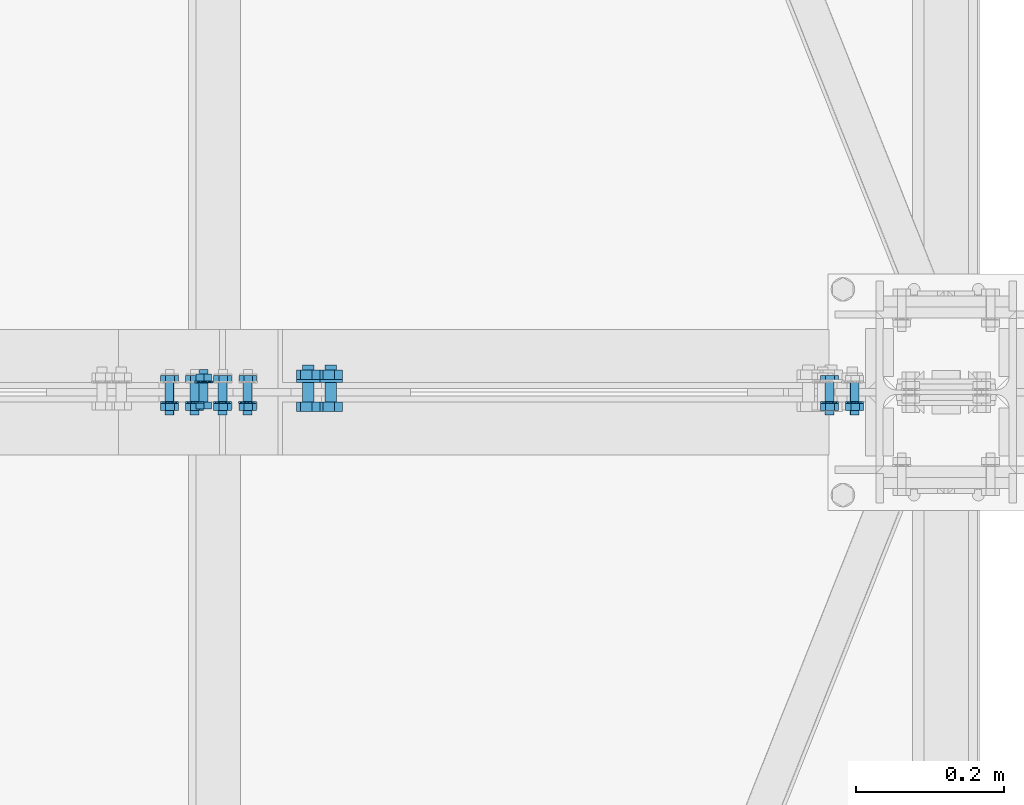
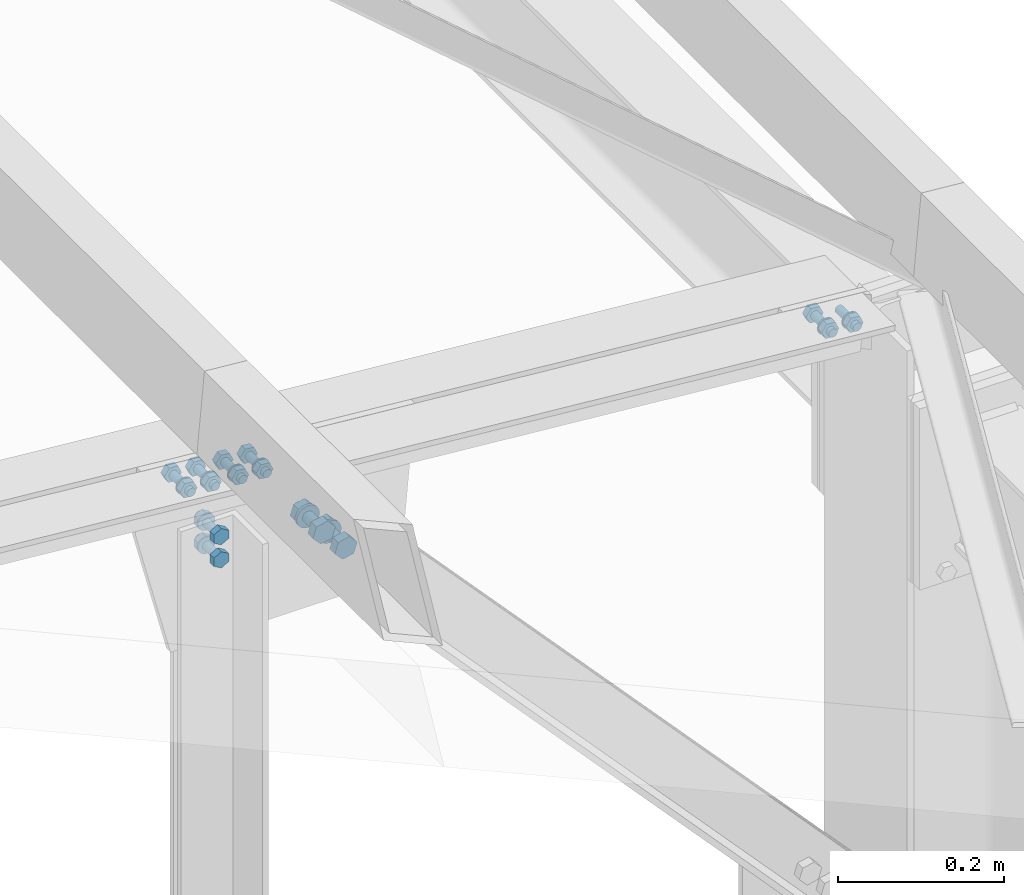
# One storey, part 180 of 251: 39 mechanical fasteners.
"""IFC4 building model written with IfcOpenShell, lengths in metres."""

import ifcopenshell
import ifcopenshell.guid

model = None  # the IFC model being written
_history = None  # IfcOwnerHistory: only IFC2X3 demands one
_inside = {}  # id of a spatial element -> (the spatial element, [elements in it])
_under = {}  # id of a project, library or spatial element -> (it, [spatial elements below it])
_declared = {}  # id of a project -> (the project, [libraries it declares])
_typed = {}  # id of a type object -> (the type object, [elements of that type])
_made_of = {}  # id of a material, layer set ... -> (it, [elements and type objects made of it])


def new_model(schema):
    """Start an empty IFC model of exactly this schema.

    Asked for "IFC4X3", IfcOpenShell would pick the latest addendum, in which some entities
    have other attributes; the version numbers below select the first issue.
    IFC2X3 requires an IfcOwnerHistory on every rooted entity: one is made here for all.
    """
    global model, _history
    if schema == "IFC4X3":
        model = ifcopenshell.file(schema_version=(4, 3, 0, 0))
    else:
        model = ifcopenshell.file(schema=schema)
    _inside.clear()
    _under.clear()
    _declared.clear()
    _typed.clear()
    _made_of.clear()
    _history = None
    if model.schema == "IFC2X3":
        org = make("IfcOrganization", Name="unknown")
        user = make(
            "IfcPersonAndOrganization",
            ThePerson=make("IfcPerson", FamilyName="unknown"),
            TheOrganization=org,
        )
        app = make(
            "IfcApplication",
            ApplicationDeveloper=org,
            Version="unknown",
            ApplicationFullName="unknown",
            ApplicationIdentifier="unknown",
        )
        _history = make(
            "IfcOwnerHistory",
            OwningUser=user,
            OwningApplication=app,
            ChangeAction="ADDED",
            CreationDate=0,
        )
    return model


def make(cls, **values):
    """One entity of the class cls with the attributes given. An attribute that is None is left unset."""
    return model.create_entity(
        cls, **{name: value for name, value in values.items() if value is not None}
    )


def rooted(cls, **values):
    """An entity with a GlobalId (a new one), such as an element, a storey or a relation."""
    return make(cls, GlobalId=ifcopenshell.guid.new(), OwnerHistory=_history, **values)


def si_unit(unit_type, name, prefix=None):
    """IfcSIUnit, for example si_unit("LENGTHUNIT", "METRE", prefix="MILLI")."""
    return make("IfcSIUnit", UnitType=unit_type, Prefix=prefix, Name=name)


def assignment(units):
    """IfcUnitAssignment: the units of a project."""
    return None if units is None else make("IfcUnitAssignment", Units=units)


def point(xyz):
    """IfcCartesianPoint."""
    return None if xyz is None else make("IfcCartesianPoint", Coordinates=xyz)


def direction(xyz):
    """IfcDirection."""
    return None if xyz is None else make("IfcDirection", DirectionRatios=xyz)


def frame(location, z_axis=None, x_axis=None):
    """IfcAxis2Placement3D, a coordinate frame: its origin and axes. An axis left out is left unset."""
    return make(
        "IfcAxis2Placement3D",
        Location=point(location),
        Axis=direction(z_axis),
        RefDirection=direction(x_axis),
    )


def origin_with_axes():
    """The frame at (0, 0, 0) with the z axis (0, 0, 1) and the x axis (1, 0, 0) written out."""
    return frame((0.0, 0.0, 0.0), z_axis=(0.0, 0.0, 1.0), x_axis=(1.0, 0.0, 0.0))


def place(relative_to, where):
    """IfcLocalPlacement: puts the frame where relative to a parent placement (None: the world)."""
    return make(
        "IfcLocalPlacement", PlacementRelTo=relative_to, RelativePlacement=where
    )


def context(
    kind, dimensions, precision=None, world=None, true_north=None, identifier=None
):
    """IfcGeometricRepresentationContext, for example the 3D "Model" context."""
    return make(
        "IfcGeometricRepresentationContext",
        ContextIdentifier=identifier,
        ContextType=kind,
        CoordinateSpaceDimension=dimensions,
        Precision=precision,
        WorldCoordinateSystem=world,
        TrueNorth=true_north,
    )


def project(units=None, contexts=None):
    """IfcProject with its units and contexts."""
    return rooted(
        "IfcProject",
        Name="project",
        RepresentationContexts=contexts,
        UnitsInContext=assignment(units),
    )


def spatial(cls, under=None, at=None, **own):
    """A site, building, storey or space (cls), placed at a placement, below another one or the project."""
    s = rooted(cls, ObjectPlacement=at, **own)
    if under is not None:
        _under.setdefault(under.id(), (under, []))[1].append(s)
    return s


def polyline(points):
    """IfcPolyline through the points."""
    return make("IfcPolyline", Points=[point(p) for p in points])


def outline(outer, holes=None, kind="AREA"):
    """IfcArbitraryClosedProfileDef: a profile drawn as a closed curve; with holes, ...WithVoids."""
    if holes is None:
        return make("IfcArbitraryClosedProfileDef", ProfileType=kind, OuterCurve=outer)
    return make(
        "IfcArbitraryProfileDefWithVoids",
        ProfileType=kind,
        OuterCurve=outer,
        InnerCurves=holes,
    )


def extrude(swept, where, along, depth):
    """IfcExtrudedAreaSolid: the profile swept, set in the frame where, extruded along a direction by depth."""
    return make(
        "IfcExtrudedAreaSolid",
        SweptArea=swept,
        Position=where,
        ExtrudedDirection=direction(along),
        Depth=depth,
    )


def shape(context_of_items, identifier, shape_type, items):
    """IfcShapeRepresentation: the items that make up one representation, for example the "Body"."""
    return make(
        "IfcShapeRepresentation",
        ContextOfItems=context_of_items,
        RepresentationIdentifier=identifier,
        RepresentationType=shape_type,
        Items=items,
    )


def made_of(thing, what):
    """Note that an element or type object is made of a material, layer set ...; save() writes the relation."""
    if what is not None:
        _made_of.setdefault(what.id(), (what, []))[1].append(thing)
    return thing


def type_object(cls, material=None, **own):
    """A type object (cls), such as IfcWallType, which elements share."""
    return made_of(rooted(cls, **own), material)


def element(
    cls,
    number,
    at=None,
    inside=None,
    cuts=None,
    type_object=None,
    material=None,
    context=None,
    identifier="Body",
    shape_type=None,
    held_by="IfcProductDefinitionShape",
    body=None,
    shapes=None,
    **own,
):
    """One element of the class cls, such as IfcWall. Its Tag is "e" and its number.

    at: its placement. inside: the storey or other place that contains it. cuts: it is an
    opening in that element (IfcRelVoidsElement). A single representation is given by context,
    identifier, shape_type and body (its items); several are given by shapes. held_by: the class
    of the entity that holds the representations. save() writes the other relations.
    """
    e = rooted(cls, Tag="e%d" % number, ObjectPlacement=at, **own)
    if body is not None:
        shapes = [shape(context, identifier, shape_type, body)]
    if shapes is not None:
        e.Representation = make(held_by, Representations=shapes)
    if inside is not None:
        _inside.setdefault(inside.id(), (inside, []))[1].append(e)
    if cuts is not None:
        rooted(
            "IfcRelVoidsElement", RelatingBuildingElement=cuts, RelatedOpeningElement=e
        )
    if type_object is not None:
        _typed.setdefault(type_object.id(), (type_object, []))[1].append(e)
    return made_of(e, material)


def aggregate(whole, parts):
    """IfcRelAggregates: a whole, such as a stair, and the parts it consists of."""
    return rooted("IfcRelAggregates", RelatingObject=whole, RelatedObjects=parts)


def save(model, path):
    """Write the relations noted so far, then the file.

    IfcRelAggregates (storeys below a building ...), IfcRelContainedInSpatialStructure (elements
    in a storey), IfcRelDefinesByType, IfcRelAssociatesMaterial and IfcRelDeclares: one each for
    every whole, place, type object, material and project.
    """
    for whole, parts in _under.values():
        aggregate(whole, parts)
    for where, things in _inside.values():
        rooted(
            "IfcRelContainedInSpatialStructure",
            RelatedElements=things,
            RelatingStructure=where,
        )
    for kind, things in _typed.values():
        rooted("IfcRelDefinesByType", RelatedObjects=things, RelatingType=kind)
    for what, things in _made_of.values():
        rooted("IfcRelAssociatesMaterial", RelatedObjects=things, RelatingMaterial=what)
    for by, libraries in _declared.values():
        rooted("IfcRelDeclares", RelatingContext=by, RelatedDefinitions=libraries)
    model.write(path)


model = new_model("IFC4")

# Units and contexts
model_context = context("Model", 3, precision=1e-05, world=origin_with_axes())
ifc_project = project(units=[si_unit("LENGTHUNIT", "METRE"), si_unit("AREAUNIT", "SQUARE_METRE"), si_unit("VOLUMEUNIT", "CUBIC_METRE"), si_unit("MASSUNIT", "GRAM", prefix="KILO"), si_unit("TIMEUNIT", "SECOND"), si_unit("PLANEANGLEUNIT", "RADIAN"), si_unit("SOLIDANGLEUNIT", "STERADIAN"), si_unit("THERMODYNAMICTEMPERATUREUNIT", "DEGREE_CELSIUS")], contexts=[model_context])

# Site, building, storey
placement_1 = place(None, origin_with_axes())
site = spatial("IfcSite", under=ifc_project, at=placement_1, Name="Italia", CompositionType="ELEMENT")
building = spatial("IfcBuilding", under=site, at=placement_1, Name="Deposito", CompositionType="ELEMENT")
storey = spatial("IfcBuildingStorey", under=building, at=placement_1, Name="Storey 0", CompositionType="ELEMENT", Elevation=0.0)

# Mechanical fasteners
mechanical_fastener_type_1 = type_object("IfcMechanicalFastenerType", Name="Reticolare 5", PredefinedType="BOLT")
placement_2 = place(placement_1, origin_with_axes())
mechanical_fastener_1_placement = place(placement_2, origin_with_axes())
element("IfcMechanicalFastener", 1, at=mechanical_fastener_1_placement, inside=storey, type_object=mechanical_fastener_type_1, Name="Reticolare 5", NominalDiameter=0.012, context=model_context, shape_type="SweptSolid", body=[
    extrude(outline(polyline([(0.0, 0.0), (-0.000204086, -0.00155306), (-0.000804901, -0.00299978), (-0.00175858, -0.00424242), (-0.00300026, -0.00519609), (-0.00444794, -0.00579548), (-0.00600052, -0.00600004), (-0.0075531, -0.00579548), (-0.00900078, -0.00519609), (-0.0102425, -0.00424242), (-0.0111961, -0.00299978), (-0.011797, -0.00155306), (-0.012001, 0.0), (-0.011797, 0.00155306), (-0.0111961, 0.00299978), (-0.0102425, 0.00424242), (-0.00900078, 0.00519609), (-0.0075531, 0.00579548), (-0.00600052, 0.00600004), (-0.00444794, 0.00579548), (-0.00300026, 0.00519609), (-0.00175858, 0.00424242), (-0.000804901, 0.00299978), (-0.000204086, 0.00155306), (0.0, 0.0)])), frame((19.8702, 14.969, 6.0038), z_axis=(0.0, 1.0, 0.0), x_axis=(-1.0, 0.0, 0.0)), (0.0, 0.0, 1.0), 0.0439997),
])
mechanical_fastener_type_2 = type_object("IfcMechanicalFastenerType", Name="Reticolare 5", PredefinedType="BOLT")
mechanical_fastener_2_placement = place(placement_2, origin_with_axes())
element("IfcMechanicalFastener", 2, at=mechanical_fastener_2_placement, inside=storey, type_object=mechanical_fastener_type_2, Name="Reticolare 5", NominalDiameter=0.011999, context=model_context, shape_type="SweptSolid", body=[
    extrude(outline(polyline([(0.0, 0.0), (0.0119534, 0.00104618), (0.018837, -0.00878382), (0.0137653, -0.0196595), (0.00181198, -0.0207052), (-0.00507164, -0.0108757), (0.0, 0.0)])), frame((19.8831, 14.9754, 6.01363), z_axis=(0.0, 1.0, 0.0), x_axis=(-1.0, 0.0, 0.0)), (0.0, 0.0, 1.0), 0.00959969),
])
mechanical_fastener_type_3 = type_object("IfcMechanicalFastenerType", Name="Reticolare 5", PredefinedType="BOLT")
mechanical_fastener_3_placement = place(placement_2, origin_with_axes())
element("IfcMechanicalFastener", 3, at=mechanical_fastener_3_placement, inside=storey, type_object=mechanical_fastener_type_3, Name="Reticolare 5", NominalDiameter=0.024, context=model_context, shape_type="SweptSolid", body=[
    extrude(outline(polyline([(0.0, 0.0), (-0.000408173, -0.00310564), (-0.00160599, -0.00600004), (-0.00351334, -0.00848532), (-0.00599861, -0.0103922), (-0.00889397, -0.011591), (-0.0119991, -0.0120001), (-0.0151043, -0.011591), (-0.0179996, -0.0103922), (-0.0204849, -0.00848532), (-0.0223923, -0.00600004), (-0.0235901, -0.00310564), (-0.0239983, 0.0), (-0.0235901, 0.00310564), (-0.0223923, 0.00600004), (-0.0204849, 0.00848532), (-0.0179996, 0.0103922), (-0.0151043, 0.011591), (-0.0119991, 0.0120001), (-0.00889397, 0.011591), (-0.00599861, 0.0103922), (-0.00351334, 0.00848532), (-0.00160599, 0.00600004), (-0.000408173, 0.00310564), (0.0, 0.0)])), frame((19.8642, 14.985, 6.0038), z_axis=(0.0, 1.0, 0.0), x_axis=(-1.0, 0.0, 0.0)), (0.0, 0.0, 1.0), 0.00200081),
])
mechanical_fastener_type_4 = type_object("IfcMechanicalFastenerType", Name="Reticolare 5", PredefinedType="BOLT")
mechanical_fastener_4_placement = place(placement_2, origin_with_axes())
element("IfcMechanicalFastener", 4, at=mechanical_fastener_4_placement, inside=storey, type_object=mechanical_fastener_type_4, Name="Reticolare 5", NominalDiameter=0.011999, context=model_context, shape_type="SweptSolid", body=[
    extrude(outline(polyline([(0.0, 0.0), (0.0119534, 0.0010457), (0.018837, -0.00878429), (0.0137653, -0.01966), (0.00181198, -0.0207057), (-0.00507164, -0.0108757), (0.0, 0.0)])), frame((19.8492, 15.013, 6.0166), z_axis=(0.0, 1.0, 0.0), x_axis=(-1.0, 0.0, 0.0)), (0.0, 0.0, 1.0), 0.00960064),
])
mechanical_fastener_type_5 = type_object("IfcMechanicalFastenerType", Name="Reticolare 5", PredefinedType="BOLT")
mechanical_fastener_5_placement = place(placement_2, origin_with_axes())
element("IfcMechanicalFastener", 5, at=mechanical_fastener_5_placement, inside=storey, type_object=mechanical_fastener_type_5, Name="Reticolare 5", NominalDiameter=0.012, context=model_context, shape_type="SweptSolid", body=[
    extrude(outline(polyline([(0.0, 0.0), (-0.000204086, -0.00155306), (-0.000804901, -0.00299978), (-0.00175858, -0.00424242), (-0.00300026, -0.00519609), (-0.00444794, -0.00579548), (-0.00600052, -0.00600004), (-0.0075531, -0.00579548), (-0.00900078, -0.00519609), (-0.0102425, -0.00424242), (-0.0111961, -0.00299978), (-0.011797, -0.00155306), (-0.012001, 0.0), (-0.011797, 0.00155306), (-0.0111961, 0.00299978), (-0.0102425, 0.00424242), (-0.00900078, 0.00519609), (-0.0075531, 0.00579548), (-0.00600052, 0.00600004), (-0.00444794, 0.00579548), (-0.00300026, 0.00519609), (-0.00175858, 0.00424242), (-0.000804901, 0.00299978), (-0.000204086, 0.00155306), (0.0, 0.0)])), frame((19.8363, 14.969, 6.00677), z_axis=(0.0, 1.0, 0.0), x_axis=(-1.0, 0.0, 0.0)), (0.0, 0.0, 1.0), 0.0439997),
])
mechanical_fastener_type_6 = type_object("IfcMechanicalFastenerType", Name="Reticolare 5", PredefinedType="BOLT")
mechanical_fastener_6_placement = place(placement_2, origin_with_axes())
element("IfcMechanicalFastener", 6, at=mechanical_fastener_6_placement, inside=storey, type_object=mechanical_fastener_type_6, Name="Reticolare 5", NominalDiameter=0.011999, context=model_context, shape_type="SweptSolid", body=[
    extrude(outline(polyline([(0.0, 0.0), (0.0119534, 0.0010457), (0.018837, -0.00878429), (0.0137653, -0.01966), (0.00181198, -0.0207057), (-0.00507164, -0.0108757), (0.0, 0.0)])), frame((19.8492, 14.9754, 6.0166), z_axis=(0.0, 1.0, 0.0), x_axis=(-1.0, 0.0, 0.0)), (0.0, 0.0, 1.0), 0.00959969),
])
mechanical_fastener_type_7 = type_object("IfcMechanicalFastenerType", Name="Reticolare 5", PredefinedType="BOLT")
mechanical_fastener_7_placement = place(placement_2, origin_with_axes())
element("IfcMechanicalFastener", 7, at=mechanical_fastener_7_placement, inside=storey, type_object=mechanical_fastener_type_7, Name="Reticolare 5", NominalDiameter=0.024, context=model_context, shape_type="SweptSolid", body=[
    extrude(outline(polyline([(0.0, 0.0), (-0.000408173, -0.00310564), (-0.00160599, -0.00600004), (-0.00351334, -0.00848532), (-0.00599861, -0.0103922), (-0.00889397, -0.011591), (-0.0119991, -0.0120001), (-0.0151043, -0.011591), (-0.0179996, -0.0103922), (-0.0204849, -0.00848532), (-0.0223923, -0.00600004), (-0.0235901, -0.00310564), (-0.0239983, 0.0), (-0.0235901, 0.00310564), (-0.0223923, 0.00600004), (-0.0204849, 0.00848532), (-0.0179996, 0.0103922), (-0.0151043, 0.011591), (-0.0119991, 0.0120001), (-0.00889397, 0.011591), (-0.00599861, 0.0103922), (-0.00351334, 0.00848532), (-0.00160599, 0.00600004), (-0.000408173, 0.00310564), (0.0, 0.0)])), frame((19.8303, 14.985, 6.00677), z_axis=(0.0, 1.0, 0.0), x_axis=(-1.0, 0.0, 0.0)), (0.0, 0.0, 1.0), 0.00200081),
])
mechanical_fastener_type_8 = type_object("IfcMechanicalFastenerType", Name="Reticolare 5", PredefinedType="BOLT")
mechanical_fastener_8_placement = place(placement_2, origin_with_axes())
element("IfcMechanicalFastener", 8, at=mechanical_fastener_8_placement, inside=storey, type_object=mechanical_fastener_type_8, Name="Reticolare 5", NominalDiameter=0.011999, context=model_context, shape_type="SweptSolid", body=[
    extrude(outline(polyline([(0.0, 0.0), (0.0119534, 0.0010457), (0.018837, -0.00878429), (0.0137653, -0.01966), (0.00181007, -0.0207057), (-0.00507164, -0.0108757), (0.0, 0.0)])), frame((19.029, 15.013, 6.08836), z_axis=(0.0, 1.0, 0.0), x_axis=(-1.0, 0.0, 0.0)), (0.0, 0.0, 1.0), 0.00960064),
])
mechanical_fastener_type_9 = type_object("IfcMechanicalFastenerType", Name="Reticolare 5", PredefinedType="BOLT")
mechanical_fastener_9_placement = place(placement_2, origin_with_axes())
element("IfcMechanicalFastener", 9, at=mechanical_fastener_9_placement, inside=storey, type_object=mechanical_fastener_type_9, Name="Reticolare 5", NominalDiameter=0.012, context=model_context, shape_type="SweptSolid", body=[
    extrude(outline(polyline([(0.0, 0.0), (-0.000204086, -0.00155306), (-0.000804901, -0.00299978), (-0.00175858, -0.00424242), (-0.00300026, -0.00519609), (-0.00444794, -0.00579548), (-0.00600052, -0.00600004), (-0.0075531, -0.00579548), (-0.00900078, -0.00519609), (-0.0102425, -0.00424242), (-0.0111961, -0.00299978), (-0.011797, -0.00155306), (-0.012001, 0.0), (-0.011797, 0.00155306), (-0.0111961, 0.00299978), (-0.0102425, 0.00424242), (-0.00900078, 0.00519609), (-0.0075531, 0.00579548), (-0.00600052, 0.00600004), (-0.00444794, 0.00579548), (-0.00300026, 0.00519609), (-0.00175858, 0.00424242), (-0.000804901, 0.00299978), (-0.000204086, 0.00155306), (0.0, 0.0)])), frame((19.0161, 14.969, 6.07853), z_axis=(0.0, 1.0, 0.0), x_axis=(-1.0, 0.0, 0.0)), (0.0, 0.0, 1.0), 0.0439997),
])
mechanical_fastener_type_10 = type_object("IfcMechanicalFastenerType", Name="Reticolare 5", PredefinedType="BOLT")
mechanical_fastener_10_placement = place(placement_2, origin_with_axes())
element("IfcMechanicalFastener", 10, at=mechanical_fastener_10_placement, inside=storey, type_object=mechanical_fastener_type_10, Name="Reticolare 5", NominalDiameter=0.011999, context=model_context, shape_type="SweptSolid", body=[
    extrude(outline(polyline([(0.0, 0.0), (0.0119534, 0.0010457), (0.018837, -0.00878429), (0.0137653, -0.01966), (0.00181007, -0.0207057), (-0.00507164, -0.0108757), (0.0, 0.0)])), frame((19.029, 14.9754, 6.08836), z_axis=(0.0, 1.0, 0.0), x_axis=(-1.0, 0.0, 0.0)), (0.0, 0.0, 1.0), 0.00959969),
])
mechanical_fastener_type_11 = type_object("IfcMechanicalFastenerType", Name="Reticolare 5", PredefinedType="BOLT")
mechanical_fastener_11_placement = place(placement_2, origin_with_axes())
element("IfcMechanicalFastener", 11, at=mechanical_fastener_11_placement, inside=storey, type_object=mechanical_fastener_type_11, Name="Reticolare 5", NominalDiameter=0.024, context=model_context, shape_type="SweptSolid", body=[
    extrude(outline(polyline([(0.0, 0.0), (-0.000408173, -0.00310564), (-0.00160599, -0.00600004), (-0.00351334, -0.00848532), (-0.00599861, -0.0103922), (-0.00889397, -0.011591), (-0.0119991, -0.0120001), (-0.0151043, -0.011591), (-0.0179996, -0.0103922), (-0.0204849, -0.00848532), (-0.0223923, -0.00600004), (-0.0235901, -0.00310564), (-0.0239983, 0.0), (-0.0235901, 0.00310564), (-0.0223923, 0.00600004), (-0.0204849, 0.00848532), (-0.0179996, 0.0103922), (-0.0151043, 0.011591), (-0.0119991, 0.0120001), (-0.00889397, 0.011591), (-0.00599861, 0.0103922), (-0.00351334, 0.00848532), (-0.00160599, 0.00600004), (-0.000408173, 0.00310564), (0.0, 0.0)])), frame((19.0101, 14.985, 6.07853), z_axis=(0.0, 1.0, 0.0), x_axis=(-1.0, 0.0, 0.0)), (0.0, 0.0, 1.0), 0.00200081),
])
mechanical_fastener_type_12 = type_object("IfcMechanicalFastenerType", Name="Reticolare 5", PredefinedType="BOLT")
mechanical_fastener_12_placement = place(placement_2, origin_with_axes())
element("IfcMechanicalFastener", 12, at=mechanical_fastener_12_placement, inside=storey, type_object=mechanical_fastener_type_12, Name="Reticolare 5", NominalDiameter=0.011999, context=model_context, shape_type="SweptSolid", body=[
    extrude(outline(polyline([(0.0, 0.0), (0.0119534, 0.0010457), (0.018837, -0.00878382), (0.0137653, -0.0196595), (0.00181007, -0.0207052), (-0.00507164, -0.0108757), (0.0, 0.0)])), frame((19.0629, 15.013, 6.08539), z_axis=(0.0, 1.0, 0.0), x_axis=(-1.0, 0.0, 0.0)), (0.0, 0.0, 1.0), 0.00960064),
])
mechanical_fastener_type_13 = type_object("IfcMechanicalFastenerType", Name="Reticolare 5", PredefinedType="BOLT")
mechanical_fastener_13_placement = place(placement_2, origin_with_axes())
element("IfcMechanicalFastener", 13, at=mechanical_fastener_13_placement, inside=storey, type_object=mechanical_fastener_type_13, Name="Reticolare 5", NominalDiameter=0.012, context=model_context, shape_type="SweptSolid", body=[
    extrude(outline(polyline([(0.0, 0.0), (-0.000204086, -0.00155306), (-0.000804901, -0.00299978), (-0.00175858, -0.00424242), (-0.00300026, -0.00519609), (-0.00444794, -0.00579548), (-0.00600052, -0.00600004), (-0.0075531, -0.00579548), (-0.00900078, -0.00519609), (-0.0102425, -0.00424242), (-0.0111961, -0.00299978), (-0.011797, -0.00155306), (-0.012001, 0.0), (-0.011797, 0.00155306), (-0.0111961, 0.00299978), (-0.0102425, 0.00424242), (-0.00900078, 0.00519609), (-0.0075531, 0.00579548), (-0.00600052, 0.00600004), (-0.00444794, 0.00579548), (-0.00300026, 0.00519609), (-0.00175858, 0.00424242), (-0.000804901, 0.00299978), (-0.000204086, 0.00155306), (0.0, 0.0)])), frame((19.05, 14.969, 6.07556), z_axis=(0.0, 1.0, 0.0), x_axis=(-1.0, 0.0, 0.0)), (0.0, 0.0, 1.0), 0.0439997),
])
mechanical_fastener_type_14 = type_object("IfcMechanicalFastenerType", Name="Reticolare 5", PredefinedType="BOLT")
mechanical_fastener_14_placement = place(placement_2, origin_with_axes())
element("IfcMechanicalFastener", 14, at=mechanical_fastener_14_placement, inside=storey, type_object=mechanical_fastener_type_14, Name="Reticolare 5", NominalDiameter=0.011999, context=model_context, shape_type="SweptSolid", body=[
    extrude(outline(polyline([(0.0, 0.0), (0.0119534, 0.0010457), (0.018837, -0.00878382), (0.0137653, -0.0196595), (0.00181007, -0.0207052), (-0.00507164, -0.0108757), (0.0, 0.0)])), frame((19.0629, 14.9754, 6.08539), z_axis=(0.0, 1.0, 0.0), x_axis=(-1.0, 0.0, 0.0)), (0.0, 0.0, 1.0), 0.00959969),
])
mechanical_fastener_type_15 = type_object("IfcMechanicalFastenerType", Name="Reticolare 5", PredefinedType="BOLT")
mechanical_fastener_15_placement = place(placement_2, origin_with_axes())
element("IfcMechanicalFastener", 15, at=mechanical_fastener_15_placement, inside=storey, type_object=mechanical_fastener_type_15, Name="Reticolare 5", NominalDiameter=0.024, context=model_context, shape_type="SweptSolid", body=[
    extrude(outline(polyline([(0.0, 0.0), (-0.000408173, -0.00310564), (-0.00160599, -0.00600004), (-0.00351334, -0.00848532), (-0.00599861, -0.0103922), (-0.00889397, -0.011591), (-0.0119991, -0.0120001), (-0.0151043, -0.011591), (-0.0179996, -0.0103922), (-0.0204849, -0.00848532), (-0.0223923, -0.00600004), (-0.0235901, -0.00310564), (-0.0239983, 0.0), (-0.0235901, 0.00310564), (-0.0223923, 0.00600004), (-0.0204849, 0.00848532), (-0.0179996, 0.0103922), (-0.0151043, 0.011591), (-0.0119991, 0.0120001), (-0.00889397, 0.011591), (-0.00599861, 0.0103922), (-0.00351334, 0.00848532), (-0.00160599, 0.00600004), (-0.000408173, 0.00310564), (0.0, 0.0)])), frame((19.044, 14.985, 6.07556), z_axis=(0.0, 1.0, 0.0), x_axis=(-1.0, 0.0, 0.0)), (0.0, 0.0, 1.0), 0.00200081),
])
mechanical_fastener_type_16 = type_object("IfcMechanicalFastenerType", Name="Reticolare 5", PredefinedType="BOLT")
mechanical_fastener_16_placement = place(placement_2, origin_with_axes())
element("IfcMechanicalFastener", 16, at=mechanical_fastener_16_placement, inside=storey, type_object=mechanical_fastener_type_16, Name="Reticolare 5", NominalDiameter=0.011999, context=model_context, shape_type="SweptSolid", body=[
    extrude(outline(polyline([(0.0, 0.0), (0.0119534, 0.00104618), (0.018837, -0.00878382), (0.0137653, -0.0196595), (0.00181198, -0.0207052), (-0.00507164, -0.0108757), (0.0, 0.0)])), frame((18.9911, 15.013, 6.09167), z_axis=(0.0, 1.0, 0.0), x_axis=(-1.0, 0.0, 0.0)), (0.0, 0.0, 1.0), 0.00960064),
])
mechanical_fastener_type_17 = type_object("IfcMechanicalFastenerType", Name="Reticolare 5", PredefinedType="BOLT")
mechanical_fastener_17_placement = place(placement_2, origin_with_axes())
element("IfcMechanicalFastener", 17, at=mechanical_fastener_17_placement, inside=storey, type_object=mechanical_fastener_type_17, Name="Reticolare 5", NominalDiameter=0.012, context=model_context, shape_type="SweptSolid", body=[
    extrude(outline(polyline([(0.0, 0.0), (-0.000204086, -0.00155306), (-0.000804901, -0.00299978), (-0.00175858, -0.00424242), (-0.00300026, -0.00519609), (-0.00444794, -0.00579548), (-0.00600052, -0.00600004), (-0.0075531, -0.00579548), (-0.00900078, -0.00519609), (-0.0102425, -0.00424242), (-0.0111961, -0.00299978), (-0.011797, -0.00155306), (-0.012001, 0.0), (-0.011797, 0.00155306), (-0.0111961, 0.00299978), (-0.0102425, 0.00424242), (-0.00900078, 0.00519609), (-0.0075531, 0.00579548), (-0.00600052, 0.00600004), (-0.00444794, 0.00579548), (-0.00300026, 0.00519609), (-0.00175858, 0.00424242), (-0.000804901, 0.00299978), (-0.000204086, 0.00155306), (0.0, 0.0)])), frame((18.9783, 14.969, 6.08184), z_axis=(0.0, 1.0, 0.0), x_axis=(-1.0, 0.0, 0.0)), (0.0, 0.0, 1.0), 0.0439997),
])
mechanical_fastener_type_18 = type_object("IfcMechanicalFastenerType", Name="Reticolare 5", PredefinedType="BOLT")
mechanical_fastener_18_placement = place(placement_2, origin_with_axes())
element("IfcMechanicalFastener", 18, at=mechanical_fastener_18_placement, inside=storey, type_object=mechanical_fastener_type_18, Name="Reticolare 5", NominalDiameter=0.011999, context=model_context, shape_type="SweptSolid", body=[
    extrude(outline(polyline([(0.0, 0.0), (0.0119534, 0.00104618), (0.018837, -0.00878382), (0.0137653, -0.0196595), (0.00181198, -0.0207052), (-0.00507164, -0.0108757), (0.0, 0.0)])), frame((18.9911, 14.9754, 6.09167), z_axis=(0.0, 1.0, 0.0), x_axis=(-1.0, 0.0, 0.0)), (0.0, 0.0, 1.0), 0.00959969),
])
mechanical_fastener_type_19 = type_object("IfcMechanicalFastenerType", Name="Reticolare 5", PredefinedType="BOLT")
mechanical_fastener_19_placement = place(placement_2, origin_with_axes())
element("IfcMechanicalFastener", 19, at=mechanical_fastener_19_placement, inside=storey, type_object=mechanical_fastener_type_19, Name="Reticolare 5", NominalDiameter=0.024, context=model_context, shape_type="SweptSolid", body=[
    extrude(outline(polyline([(0.0, 0.0), (-0.000408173, -0.00310564), (-0.00160599, -0.00600004), (-0.00351334, -0.00848532), (-0.00599861, -0.0103922), (-0.00889397, -0.011591), (-0.0119991, -0.0120001), (-0.0151043, -0.011591), (-0.0179996, -0.0103922), (-0.0204849, -0.00848532), (-0.0223923, -0.00600004), (-0.0235901, -0.00310564), (-0.0239983, 0.0), (-0.0235901, 0.00310564), (-0.0223923, 0.00600004), (-0.0204849, 0.00848532), (-0.0179996, 0.0103922), (-0.0151043, 0.011591), (-0.0119991, 0.0120001), (-0.00889397, 0.011591), (-0.00599861, 0.0103922), (-0.00351334, 0.00848532), (-0.00160599, 0.00600004), (-0.000408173, 0.00310564), (0.0, 0.0)])), frame((18.9723, 14.985, 6.08184), z_axis=(0.0, 1.0, 0.0), x_axis=(-1.0, 0.0, 0.0)), (0.0, 0.0, 1.0), 0.00200081),
])
mechanical_fastener_type_20 = type_object("IfcMechanicalFastenerType", Name="Reticolare 5", PredefinedType="BOLT")
mechanical_fastener_20_placement = place(placement_2, origin_with_axes())
element("IfcMechanicalFastener", 20, at=mechanical_fastener_20_placement, inside=storey, type_object=mechanical_fastener_type_20, Name="Reticolare 5", NominalDiameter=0.011999, context=model_context, shape_type="SweptSolid", body=[
    extrude(outline(polyline([(0.0, 0.0), (0.0119534, 0.0010457), (0.018837, -0.00878429), (0.0137653, -0.01966), (0.00181198, -0.0207057), (-0.00507164, -0.0108757), (0.0, 0.0)])), frame((18.9573, 15.013, 6.09463), z_axis=(0.0, 1.0, 0.0), x_axis=(-1.0, 0.0, 0.0)), (0.0, 0.0, 1.0), 0.00960064),
])
mechanical_fastener_type_21 = type_object("IfcMechanicalFastenerType", Name="Reticolare 5", PredefinedType="BOLT")
mechanical_fastener_21_placement = place(placement_2, origin_with_axes())
element("IfcMechanicalFastener", 21, at=mechanical_fastener_21_placement, inside=storey, type_object=mechanical_fastener_type_21, Name="Reticolare 5", NominalDiameter=0.012, context=model_context, shape_type="SweptSolid", body=[
    extrude(outline(polyline([(0.0, 0.0), (-0.000204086, -0.00155306), (-0.000804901, -0.00299978), (-0.00175858, -0.00424242), (-0.00300026, -0.00519609), (-0.00444794, -0.00579548), (-0.00600052, -0.00600004), (-0.0075531, -0.00579548), (-0.00900078, -0.00519609), (-0.0102425, -0.00424242), (-0.0111961, -0.00299978), (-0.011797, -0.00155306), (-0.012001, 0.0), (-0.011797, 0.00155306), (-0.0111961, 0.00299978), (-0.0102425, 0.00424242), (-0.00900078, 0.00519609), (-0.0075531, 0.00579548), (-0.00600052, 0.00600004), (-0.00444794, 0.00579548), (-0.00300026, 0.00519609), (-0.00175858, 0.00424242), (-0.000804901, 0.00299978), (-0.000204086, 0.00155306), (0.0, 0.0)])), frame((18.9444, 14.969, 6.0848), z_axis=(0.0, 1.0, 0.0), x_axis=(-1.0, 0.0, 0.0)), (0.0, 0.0, 1.0), 0.0439997),
])
mechanical_fastener_type_22 = type_object("IfcMechanicalFastenerType", Name="Reticolare 5", PredefinedType="BOLT")
mechanical_fastener_22_placement = place(placement_2, origin_with_axes())
element("IfcMechanicalFastener", 22, at=mechanical_fastener_22_placement, inside=storey, type_object=mechanical_fastener_type_22, Name="Reticolare 5", NominalDiameter=0.011999, context=model_context, shape_type="SweptSolid", body=[
    extrude(outline(polyline([(0.0, 0.0), (0.0119534, 0.0010457), (0.018837, -0.00878429), (0.0137653, -0.01966), (0.00181198, -0.0207057), (-0.00507164, -0.0108757), (0.0, 0.0)])), frame((18.9573, 14.9754, 6.09463), z_axis=(0.0, 1.0, 0.0), x_axis=(-1.0, 0.0, 0.0)), (0.0, 0.0, 1.0), 0.00959969),
])
mechanical_fastener_type_23 = type_object("IfcMechanicalFastenerType", Name="Reticolare 5", PredefinedType="BOLT")
mechanical_fastener_23_placement = place(placement_2, origin_with_axes())
element("IfcMechanicalFastener", 23, at=mechanical_fastener_23_placement, inside=storey, type_object=mechanical_fastener_type_23, Name="Reticolare 5", NominalDiameter=0.024, context=model_context, shape_type="SweptSolid", body=[
    extrude(outline(polyline([(0.0, 0.0), (-0.000408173, -0.00310564), (-0.00160599, -0.00600004), (-0.00351334, -0.00848532), (-0.00599861, -0.0103922), (-0.00889397, -0.011591), (-0.0119991, -0.0120001), (-0.0151043, -0.011591), (-0.0179996, -0.0103922), (-0.0204849, -0.00848532), (-0.0223923, -0.00600004), (-0.0235901, -0.00310564), (-0.0239983, 0.0), (-0.0235901, 0.00310564), (-0.0223923, 0.00600004), (-0.0204849, 0.00848532), (-0.0179996, 0.0103922), (-0.0151043, 0.011591), (-0.0119991, 0.0120001), (-0.00889397, 0.011591), (-0.00599861, 0.0103922), (-0.00351334, 0.00848532), (-0.00160599, 0.00600004), (-0.000408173, 0.00310564), (0.0, 0.0)])), frame((18.9384, 14.985, 6.0848), z_axis=(0.0, 1.0, 0.0), x_axis=(-1.0, 0.0, 0.0)), (0.0, 0.0, 1.0), 0.00200081),
])
mechanical_fastener_type_24 = type_object("IfcMechanicalFastenerType", Name="Reticolare 5", PredefinedType="BOLT")
mechanical_fastener_24_placement = place(placement_2, origin_with_axes())
element("IfcMechanicalFastener", 24, at=mechanical_fastener_24_placement, inside=storey, type_object=mechanical_fastener_type_24, Name="Reticolare 5", NominalDiameter=0.0120001, context=model_context, shape_type="SweptSolid", body=[
    extrude(outline(polyline([(0.0, 0.0), (0.0, -0.0120001), (-0.0103931, -0.0180001), (-0.0207863, -0.0120001), (-0.0207863, 0.0), (-0.0103931, 0.00600004), (0.0, 0.0)])), frame((19.0072, 14.987, 6.0044), z_axis=(0.0, -1.0, 0.0), x_axis=(1.0, 0.0, 0.0)), (0.0, 0.0, 1.0), 0.00960064),
])
mechanical_fastener_type_25 = type_object("IfcMechanicalFastenerType", Name="Reticolare 5", PredefinedType="BOLT")
mechanical_fastener_25_placement = place(placement_2, origin_with_axes())
element("IfcMechanicalFastener", 25, at=mechanical_fastener_25_placement, inside=storey, type_object=mechanical_fastener_type_25, Name="Reticolare 5", NominalDiameter=0.012, context=model_context, shape_type="SweptSolid", body=[
    extrude(outline(polyline([(0.0, 0.0), (-0.000204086, -0.00155306), (-0.000804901, -0.00299978), (-0.00175858, -0.00424242), (-0.00300026, -0.00519609), (-0.00444794, -0.00579548), (-0.00600052, -0.00600004), (-0.0075531, -0.00579548), (-0.00900078, -0.00519609), (-0.0102425, -0.00424242), (-0.0111961, -0.00299978), (-0.011797, -0.00155306), (-0.012001, 0.0), (-0.011797, 0.00155306), (-0.0111961, 0.00299978), (-0.0102425, 0.00424242), (-0.00900078, 0.00519609), (-0.0075531, 0.00579548), (-0.00600052, 0.00600004), (-0.00444794, 0.00579548), (-0.00300026, 0.00519609), (-0.00175858, 0.00424242), (-0.000804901, 0.00299978), (-0.000204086, 0.00155306), (0.0, 0.0)])), frame((19.0028, 15.031, 5.99839), z_axis=(0.0, -1.0, 0.0), x_axis=(1.0, 0.0, 0.0)), (0.0, 0.0, 1.0), 0.0439997),
])
mechanical_fastener_type_26 = type_object("IfcMechanicalFastenerType", Name="Reticolare 5", PredefinedType="BOLT")
mechanical_fastener_26_placement = place(placement_2, origin_with_axes())
element("IfcMechanicalFastener", 26, at=mechanical_fastener_26_placement, inside=storey, type_object=mechanical_fastener_type_26, Name="Reticolare 5", NominalDiameter=0.0120001, context=model_context, shape_type="SweptSolid", body=[
    extrude(outline(polyline([(0.0, 0.0), (0.0, -0.0120001), (-0.0103931, -0.0180001), (-0.0207863, -0.0120001), (-0.0207863, 0.0), (-0.0103931, 0.00600004), (0.0, 0.0)])), frame((19.0072, 15.0246, 6.0044), z_axis=(0.0, -1.0, 0.0), x_axis=(1.0, 0.0, 0.0)), (0.0, 0.0, 1.0), 0.00959969),
])
mechanical_fastener_type_27 = type_object("IfcMechanicalFastenerType", Name="Reticolare 5", PredefinedType="BOLT")
mechanical_fastener_27_placement = place(placement_2, origin_with_axes())
element("IfcMechanicalFastener", 27, at=mechanical_fastener_27_placement, inside=storey, type_object=mechanical_fastener_type_27, Name="Reticolare 5", NominalDiameter=0.024, context=model_context, shape_type="SweptSolid", body=[
    extrude(outline(polyline([(0.0, 0.0), (-0.000408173, -0.00310564), (-0.00160599, -0.00600004), (-0.00351334, -0.00848532), (-0.00599861, -0.0103922), (-0.00889397, -0.011591), (-0.0119991, -0.0120001), (-0.0151043, -0.011591), (-0.0179996, -0.0103922), (-0.0204849, -0.00848532), (-0.0223923, -0.00600004), (-0.0235901, -0.00310564), (-0.0239983, 0.0), (-0.0235901, 0.00310564), (-0.0223923, 0.00600004), (-0.0204849, 0.00848532), (-0.0179996, 0.0103922), (-0.0151043, 0.011591), (-0.0119991, 0.0120001), (-0.00889397, 0.011591), (-0.00599861, 0.0103922), (-0.00351334, 0.00848532), (-0.00160599, 0.00600004), (-0.000408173, 0.00310564), (0.0, 0.0)])), frame((19.0088, 15.015, 5.99839), z_axis=(0.0, -1.0, 0.0), x_axis=(1.0, 0.0, 0.0)), (0.0, 0.0, 1.0), 0.00200081),
])
mechanical_fastener_type_28 = type_object("IfcMechanicalFastenerType", Name="Reticolare 5", PredefinedType="BOLT")
mechanical_fastener_28_placement = place(placement_2, origin_with_axes())
element("IfcMechanicalFastener", 28, at=mechanical_fastener_28_placement, inside=storey, type_object=mechanical_fastener_type_28, Name="Reticolare 5", NominalDiameter=0.0120001, context=model_context, shape_type="SweptSolid", body=[
    extrude(outline(polyline([(0.0, 0.0), (0.0, -0.0120001), (-0.0103931, -0.0180001), (-0.0207863, -0.0120001), (-0.0207863, 0.0), (-0.0103931, 0.00600004), (0.0, 0.0)])), frame((19.0072, 14.987, 5.9704), z_axis=(0.0, -1.0, 0.0), x_axis=(1.0, 0.0, 0.0)), (0.0, 0.0, 1.0), 0.00960064),
])
mechanical_fastener_type_29 = type_object("IfcMechanicalFastenerType", Name="Reticolare 5", PredefinedType="BOLT")
mechanical_fastener_29_placement = place(placement_2, origin_with_axes())
element("IfcMechanicalFastener", 29, at=mechanical_fastener_29_placement, inside=storey, type_object=mechanical_fastener_type_29, Name="Reticolare 5", NominalDiameter=0.012, context=model_context, shape_type="SweptSolid", body=[
    extrude(outline(polyline([(0.0, 0.0), (-0.000204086, -0.00155306), (-0.000804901, -0.00299978), (-0.00175858, -0.00424242), (-0.00300026, -0.00519609), (-0.00444794, -0.00579548), (-0.00600052, -0.00600004), (-0.0075531, -0.00579548), (-0.00900078, -0.00519609), (-0.0102425, -0.00424242), (-0.0111961, -0.00299978), (-0.011797, -0.00155306), (-0.012001, 0.0), (-0.011797, 0.00155306), (-0.0111961, 0.00299978), (-0.0102425, 0.00424242), (-0.00900078, 0.00519609), (-0.0075531, 0.00579548), (-0.00600052, 0.00600004), (-0.00444794, 0.00579548), (-0.00300026, 0.00519609), (-0.00175858, 0.00424242), (-0.000804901, 0.00299978), (-0.000204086, 0.00155306), (0.0, 0.0)])), frame((19.0028, 15.031, 5.9644), z_axis=(0.0, -1.0, 0.0), x_axis=(1.0, 0.0, 0.0)), (0.0, 0.0, 1.0), 0.0439997),
])
mechanical_fastener_type_30 = type_object("IfcMechanicalFastenerType", Name="Reticolare 5", PredefinedType="BOLT")
mechanical_fastener_30_placement = place(placement_2, origin_with_axes())
element("IfcMechanicalFastener", 30, at=mechanical_fastener_30_placement, inside=storey, type_object=mechanical_fastener_type_30, Name="Reticolare 5", NominalDiameter=0.0120001, context=model_context, shape_type="SweptSolid", body=[
    extrude(outline(polyline([(0.0, 0.0), (0.0, -0.0120001), (-0.0103931, -0.0180001), (-0.0207863, -0.0120001), (-0.0207863, 0.0), (-0.0103931, 0.00600004), (0.0, 0.0)])), frame((19.0072, 15.0246, 5.9704), z_axis=(0.0, -1.0, 0.0), x_axis=(1.0, 0.0, 0.0)), (0.0, 0.0, 1.0), 0.00959969),
])
mechanical_fastener_type_31 = type_object("IfcMechanicalFastenerType", Name="Reticolare 5", PredefinedType="BOLT")
mechanical_fastener_31_placement = place(placement_2, origin_with_axes())
element("IfcMechanicalFastener", 31, at=mechanical_fastener_31_placement, inside=storey, type_object=mechanical_fastener_type_31, Name="Reticolare 5", NominalDiameter=0.024, context=model_context, shape_type="SweptSolid", body=[
    extrude(outline(polyline([(0.0, 0.0), (-0.000408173, -0.00310564), (-0.00160599, -0.00600004), (-0.00351334, -0.00848532), (-0.00599861, -0.0103922), (-0.00889397, -0.011591), (-0.0119991, -0.0120001), (-0.0151043, -0.011591), (-0.0179996, -0.0103922), (-0.0204849, -0.00848532), (-0.0223923, -0.00600004), (-0.0235901, -0.00310564), (-0.0239983, 0.0), (-0.0235901, 0.00310564), (-0.0223923, 0.00600004), (-0.0204849, 0.00848532), (-0.0179996, 0.0103922), (-0.0151043, 0.011591), (-0.0119991, 0.0120001), (-0.00889397, 0.011591), (-0.00599861, 0.0103922), (-0.00351334, 0.00848532), (-0.00160599, 0.00600004), (-0.000408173, 0.00310564), (0.0, 0.0)])), frame((19.0088, 15.015, 5.9644), z_axis=(0.0, -1.0, 0.0), x_axis=(1.0, 0.0, 0.0)), (0.0, 0.0, 1.0), 0.00200081),
])
mechanical_fastener_type_32 = type_object("IfcMechanicalFastenerType", Name="Reticolare 5", PredefinedType="BOLT")
mechanical_fastener_32_placement = place(placement_2, origin_with_axes())
element("IfcMechanicalFastener", 32, at=mechanical_fastener_32_placement, inside=storey, type_object=mechanical_fastener_type_32, Name="Reticolare 5", NominalDiameter=0.0159985, context=model_context, shape_type="SweptSolid", body=[
    extrude(outline(polyline([(0.0, 0.0), (-0.0108089, 0.0117965), (-0.0059967, 0.0270562), (0.00962257, 0.030519), (0.0204334, 0.0187225), (0.0156212, 0.00346327), (0.0, 0.0)])), frame((19.1332, 14.987, 5.94168), z_axis=(0.0, -1.0, 0.0), x_axis=(1.0, 0.0, 0.0)), (0.0, 0.0, 1.0), 0.0128002),
])
mechanical_fastener_type_33 = type_object("IfcMechanicalFastenerType", Name="Reticolare 5", PredefinedType="BOLT")
mechanical_fastener_33_placement = place(placement_2, origin_with_axes())
element("IfcMechanicalFastener", 33, at=mechanical_fastener_33_placement, inside=storey, type_object=mechanical_fastener_type_33, Name="Reticolare 5", NominalDiameter=0.016, context=model_context, shape_type="SweptSolid", body=[
    extrude(outline(polyline([(0.0, 0.0), (-0.000272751, -0.00207043), (-0.00107193, -0.00400019), (-0.00234222, -0.00565672), (-0.00399971, -0.00692797), (-0.00592804, -0.00772762), (-0.00799942, -0.0079999), (-0.0100708, -0.00772762), (-0.0119991, -0.00692797), (-0.0136566, -0.00565672), (-0.0149269, -0.00400019), (-0.0157261, -0.00207043), (-0.0159988, 0.0), (-0.0157261, 0.00207043), (-0.0149269, 0.00400019), (-0.0136566, 0.00565672), (-0.0119991, 0.00692797), (-0.0100708, 0.00772762), (-0.00799942, 0.0079999), (-0.00592804, 0.00772762), (-0.00399971, 0.00692797), (-0.00234222, 0.00565672), (-0.00107193, 0.00400019), (-0.000272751, 0.00207043), (0.0, 0.0)])), frame((19.146, 15.037, 5.95694), z_axis=(0.0, -1.0, 0.0), x_axis=(1.0, 0.0, 0.0)), (0.0, 0.0, 1.0), 0.0499992),
])
mechanical_fastener_type_34 = type_object("IfcMechanicalFastenerType", Name="Reticolare 5", PredefinedType="BOLT")
mechanical_fastener_34_placement = place(placement_2, origin_with_axes())
element("IfcMechanicalFastener", 34, at=mechanical_fastener_34_placement, inside=storey, type_object=mechanical_fastener_type_34, Name="Reticolare 5", NominalDiameter=0.0159985, context=model_context, shape_type="SweptSolid", body=[
    extrude(outline(polyline([(0.0, 0.0), (-0.0108089, 0.0117965), (-0.0059967, 0.0270562), (0.00962257, 0.030519), (0.0204334, 0.0187225), (0.0156212, 0.00346327), (0.0, 0.0)])), frame((19.1332, 15.0298, 5.94168), z_axis=(0.0, -1.0, 0.0), x_axis=(1.0, 0.0, 0.0)), (0.0, 0.0, 1.0), 0.0128002),
])
mechanical_fastener_type_35 = type_object("IfcMechanicalFastenerType", Name="Reticolare 5", PredefinedType="BOLT")
mechanical_fastener_35_placement = place(placement_2, origin_with_axes())
element("IfcMechanicalFastener", 35, at=mechanical_fastener_35_placement, inside=storey, type_object=mechanical_fastener_type_35, Name="Reticolare 5", NominalDiameter=0.032, context=model_context, shape_type="SweptSolid", body=[
    extrude(outline(polyline([(0.0, 0.0), (-0.000545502, -0.00414133), (-0.00214386, -0.0079999), (-0.00468636, -0.0113139), (-0.00800133, -0.0138564), (-0.0118599, -0.0154548), (-0.0160007, -0.0159998), (-0.0201416, -0.0154548), (-0.0240002, -0.0138564), (-0.0273151, -0.0113139), (-0.0298576, -0.0079999), (-0.031456, -0.00414133), (-0.0320015, 0.0), (-0.031456, 0.00414133), (-0.0298576, 0.0079999), (-0.0273151, 0.0113139), (-0.0240002, 0.0138564), (-0.0201416, 0.0154548), (-0.0160007, 0.0159998), (-0.0118599, 0.0154548), (-0.00800133, 0.0138564), (-0.00468636, 0.0113139), (-0.00214386, 0.0079999), (-0.000545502, 0.00414133), (0.0, 0.0)])), frame((19.154, 15.017, 5.95694), z_axis=(0.0, -1.0, 0.0), x_axis=(1.0, 0.0, 0.0)), (0.0, 0.0, 1.0), 0.00400066),
])
mechanical_fastener_type_36 = type_object("IfcMechanicalFastenerType", Name="Reticolare 5", PredefinedType="BOLT")
mechanical_fastener_36_placement = place(placement_2, origin_with_axes())
element("IfcMechanicalFastener", 36, at=mechanical_fastener_36_placement, inside=storey, type_object=mechanical_fastener_type_36, Name="Reticolare 5", NominalDiameter=0.0159985, context=model_context, shape_type="SweptSolid", body=[
    extrude(outline(polyline([(0.0, 0.0), (-0.0108109, 0.0117965), (-0.00599861, 0.0270557), (0.00962257, 0.030519), (0.0204315, 0.0187225), (0.0156193, 0.00346279), (0.0, 0.0)])), frame((19.1636, 14.987, 5.90851), z_axis=(0.0, -1.0, 0.0), x_axis=(1.0, 0.0, 0.0)), (0.0, 0.0, 1.0), 0.0128002),
])
mechanical_fastener_type_37 = type_object("IfcMechanicalFastenerType", Name="Reticolare 5", PredefinedType="BOLT")
mechanical_fastener_37_placement = place(placement_2, origin_with_axes())
element("IfcMechanicalFastener", 37, at=mechanical_fastener_37_placement, inside=storey, type_object=mechanical_fastener_type_37, Name="Reticolare 5", NominalDiameter=0.016, context=model_context, shape_type="SweptSolid", body=[
    extrude(outline(polyline([(0.0, 0.0), (-0.000272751, -0.00207043), (-0.00107193, -0.00400019), (-0.00234222, -0.00565672), (-0.00399971, -0.00692797), (-0.00592804, -0.00772762), (-0.00799942, -0.0079999), (-0.0100708, -0.00772762), (-0.0119991, -0.00692797), (-0.0136566, -0.00565672), (-0.0149269, -0.00400019), (-0.0157261, -0.00207043), (-0.0159988, 0.0), (-0.0157261, 0.00207043), (-0.0149269, 0.00400019), (-0.0136566, 0.00565672), (-0.0119991, 0.00692797), (-0.0100708, 0.00772762), (-0.00799942, 0.0079999), (-0.00592804, 0.00772762), (-0.00399971, 0.00692797), (-0.00234222, 0.00565672), (-0.00107193, 0.00400019), (-0.000272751, 0.00207043), (0.0, 0.0)])), frame((19.1764, 15.037, 5.92377), z_axis=(0.0, -1.0, 0.0), x_axis=(1.0, 0.0, 0.0)), (0.0, 0.0, 1.0), 0.0499992),
])
mechanical_fastener_type_38 = type_object("IfcMechanicalFastenerType", Name="Reticolare 5", PredefinedType="BOLT")
mechanical_fastener_38_placement = place(placement_2, origin_with_axes())
element("IfcMechanicalFastener", 38, at=mechanical_fastener_38_placement, inside=storey, type_object=mechanical_fastener_type_38, Name="Reticolare 5", NominalDiameter=0.0159985, context=model_context, shape_type="SweptSolid", body=[
    extrude(outline(polyline([(0.0, 0.0), (-0.0108109, 0.0117965), (-0.00599861, 0.0270557), (0.00962257, 0.030519), (0.0204315, 0.0187225), (0.0156193, 0.00346279), (0.0, 0.0)])), frame((19.1636, 15.0298, 5.90851), z_axis=(0.0, -1.0, 0.0), x_axis=(1.0, 0.0, 0.0)), (0.0, 0.0, 1.0), 0.0128002),
])
mechanical_fastener_type_39 = type_object("IfcMechanicalFastenerType", Name="Reticolare 5", PredefinedType="BOLT")
mechanical_fastener_39_placement = place(placement_2, origin_with_axes())
element("IfcMechanicalFastener", 39, at=mechanical_fastener_39_placement, inside=storey, type_object=mechanical_fastener_type_39, Name="Reticolare 5", NominalDiameter=0.032, context=model_context, shape_type="SweptSolid", body=[
    extrude(outline(polyline([(0.0, 0.0), (-0.000545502, -0.00414133), (-0.00214386, -0.0079999), (-0.00468636, -0.0113139), (-0.00800133, -0.0138564), (-0.0118599, -0.0154548), (-0.0160007, -0.0159998), (-0.0201416, -0.0154548), (-0.0240002, -0.0138564), (-0.0273151, -0.0113139), (-0.0298576, -0.0079999), (-0.031456, -0.00414133), (-0.0320015, 0.0), (-0.031456, 0.00414133), (-0.0298576, 0.0079999), (-0.0273151, 0.0113139), (-0.0240002, 0.0138564), (-0.0201416, 0.0154548), (-0.0160007, 0.0159998), (-0.0118599, 0.0154548), (-0.00800133, 0.0138564), (-0.00468636, 0.0113139), (-0.00214386, 0.0079999), (-0.000545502, 0.00414133), (0.0, 0.0)])), frame((19.1844, 15.017, 5.92377), z_axis=(0.0, -1.0, 0.0), x_axis=(1.0, 0.0, 0.0)), (0.0, 0.0, 1.0), 0.00400066),
])

save(model, "model.ifc")
